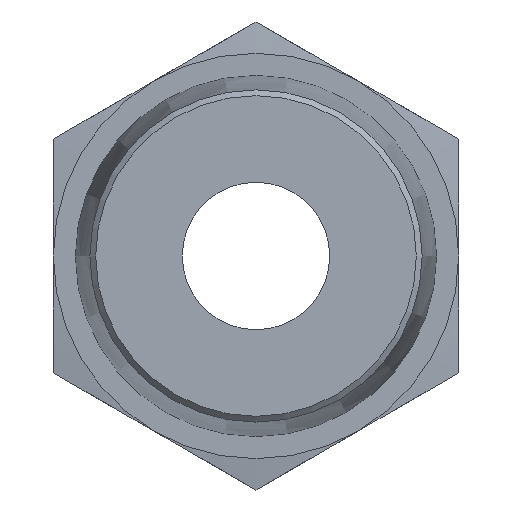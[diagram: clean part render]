
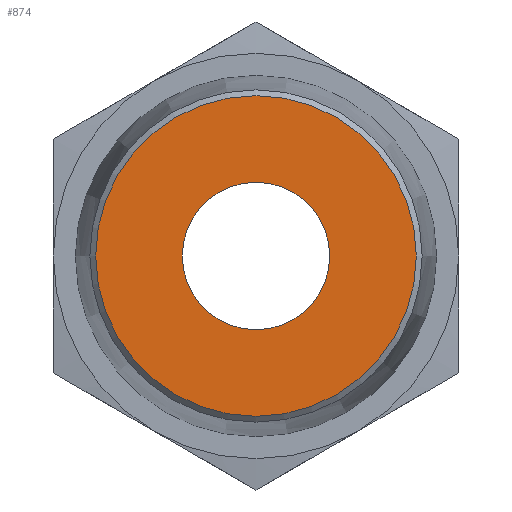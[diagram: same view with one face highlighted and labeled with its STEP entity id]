
A CAD part, front view. The second image highlights one B-rep face of the part: STEP entity #874.
In plain terms, the highlighted planar face has unit normal (0, -1, 0).
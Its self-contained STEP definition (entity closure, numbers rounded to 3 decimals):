
#33=FACE_BOUND('',#161,.T.);
#103=FACE_OUTER_BOUND('',#160,.T.);
#160=EDGE_LOOP('',(#680));
#161=EDGE_LOOP('',(#681));
#206=CIRCLE('',#958,4.);
#218=CIRCLE('',#976,8.7);
#402=VERTEX_POINT('',#1434);
#413=VERTEX_POINT('',#1466);
#499=EDGE_CURVE('',#402,#402,#206,.T.);
#515=EDGE_CURVE('',#413,#413,#218,.T.);
#680=ORIENTED_EDGE('',*,*,#515,.F.);
#681=ORIENTED_EDGE('',*,*,#499,.T.);
#837=PLANE('',#977);
#874=ADVANCED_FACE('',(#103,#33),#837,.T.);
#958=AXIS2_PLACEMENT_3D('',#1435,#1136,#1137);
#976=AXIS2_PLACEMENT_3D('',#1468,#1176,#1177);
#977=AXIS2_PLACEMENT_3D('',#1469,#1178,#1179);
#1136=DIRECTION('center_axis',(0.,1.,0.));
#1137=DIRECTION('ref_axis',(1.,0.,0.));
#1176=DIRECTION('center_axis',(0.,1.,0.));
#1177=DIRECTION('ref_axis',(-1.,0.,0.));
#1178=DIRECTION('center_axis',(0.,-1.,0.));
#1179=DIRECTION('ref_axis',(0.,0.,-1.));
#1434=CARTESIAN_POINT('',(-4.,-13.3,0.));
#1435=CARTESIAN_POINT('Origin',(0.,-13.3,0.));
#1466=CARTESIAN_POINT('',(8.7,-13.3,0.));
#1468=CARTESIAN_POINT('Origin',(0.,-13.3,0.));
#1469=CARTESIAN_POINT('Origin',(9.,-13.3,0.));
